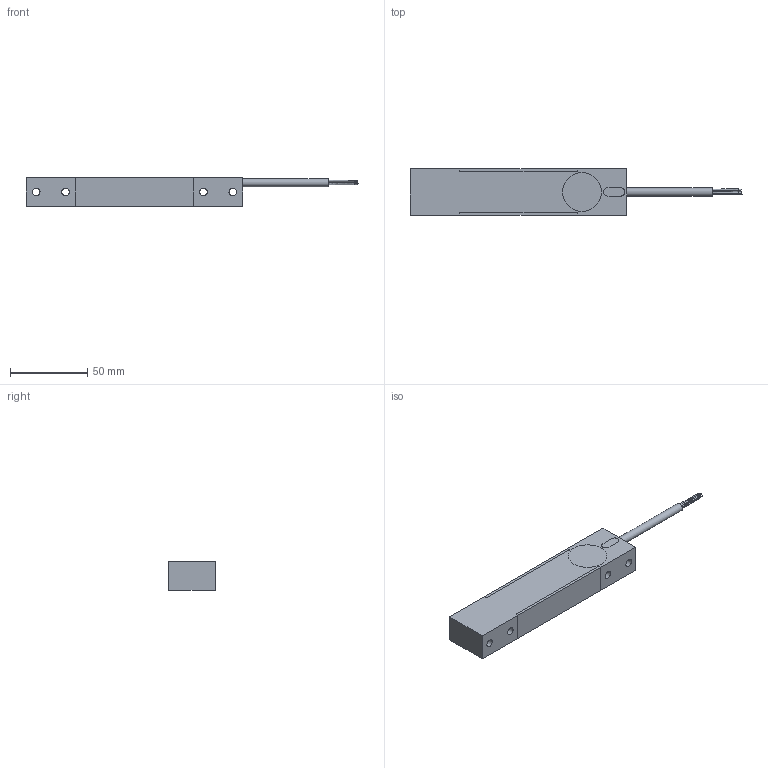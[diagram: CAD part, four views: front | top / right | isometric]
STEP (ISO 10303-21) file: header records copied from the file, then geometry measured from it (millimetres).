
FILE_DESCRIPTION(/* description */ (''),/* implementation_level */ '2;1');
FILE_NAME(/* name */ 'PC3-7-30KG ASSY STEP AP214 v3.step',/* time_stamp */ '2023-08-15T11:58:29+01:00',/* author */ (''),/* organization */ (''),/* preprocessor_version */ 'ST-DEVELOPER v20',/* originating_system */ 'Autodesk Translation Framework v12.9.0.99',/* authorisation */ '');
FILE_SCHEMA (('AUTOMOTIVE_DESIGN { 1 0 10303 214 3 1 1 }'));
Length unit declared in the file: millimetre
Products named in the file (5): PC3-7-30KG ASSY STEP AP214; 0100036; 0100038; 4 cond 24 AWG cable; Main body
Assembly tree (5 placements, depth 2):
  PC3-7-30KG ASSY STEP AP214
    0100036
    0100038  x2
    4 cond 24 AWG cable
    Main body
Bounding box: 214.22 x 30 x 18.2 mm (x, y, z)
Volume: 75286.9 mm3; surface area: 25958.2 mm2
Topology: 5 solids, 5 shells, 89 faces, 215 edges, 144 vertices
Faces by surface type: plane 50, cylinder 34, bspline 5
Full cylindrical faces by diameter (mm): 0.372 x1, 0.429 x1, 0.443 x1, 0.452 x1, 3.2 x2, 3.3 x1, 5 x4, 5.2 x1, 25 x2
Entity records: 2829 total; most frequent: CARTESIAN_POINT 671, DIRECTION 444, ORIENTED_EDGE 394, EDGE_CURVE 197, AXIS2_PLACEMENT_3D 170, VERTEX_POINT 132, EDGE_LOOP 105, LINE 104
